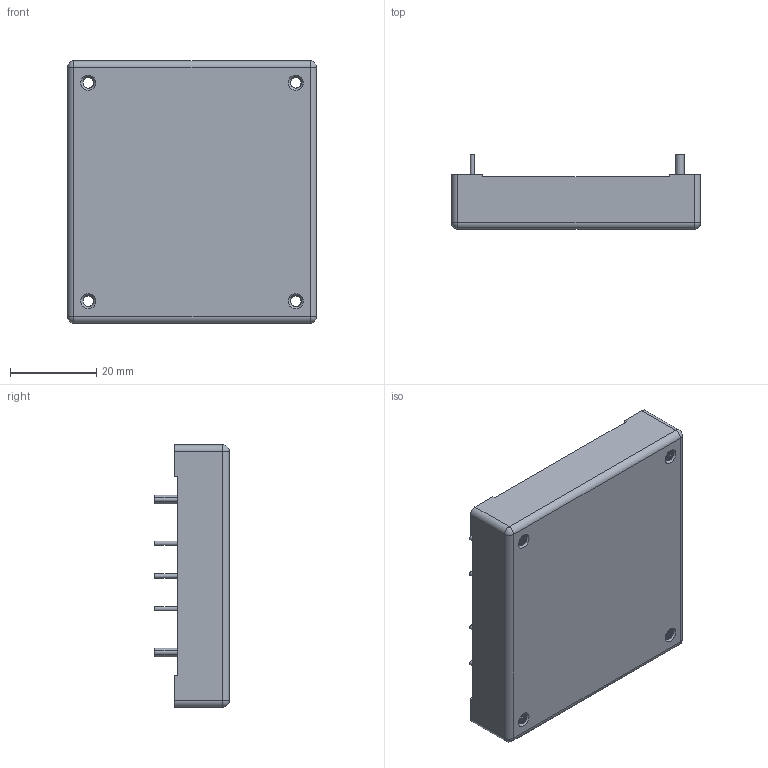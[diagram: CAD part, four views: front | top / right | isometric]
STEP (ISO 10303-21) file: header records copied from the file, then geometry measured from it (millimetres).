
FILE_DESCRIPTION (( 'STEP AP203' ), '1' );
FILE_NAME ('CHB100W成品圖2024.02.15.STEP', '2024-02-15T08:54:17', ( '' ), ( '' ), 'SwSTEP 2.0', 'SolidWorks 2020', '' );
FILE_SCHEMA (( 'CONFIG_CONTROL_DESIGN' ));
Length unit declared in the file: millimetre
Products named in the file (1): CHB100W成品圖2024.02.15
Bounding box: 57.9 x 17.3 x 61 mm (x, y, z)
Volume: 40946.4 mm3; surface area: 14105.2 mm2
Topology: 1 solids, 1 shells, 96 faces, 249 edges, 160 vertices
Faces by surface type: plane 51, cylinder 25, cone 8, bspline 8, sphere 4
Full cylindrical faces by diameter (mm): 1 x7, 2 x2
Entity records: 12209 total; most frequent: CARTESIAN_POINT 9969, ORIENTED_EDGE 436, DIRECTION 426, EDGE_CURVE 218, VERTEX_POINT 150, AXIS2_PLACEMENT_3D 147, LINE 132, VECTOR 132
